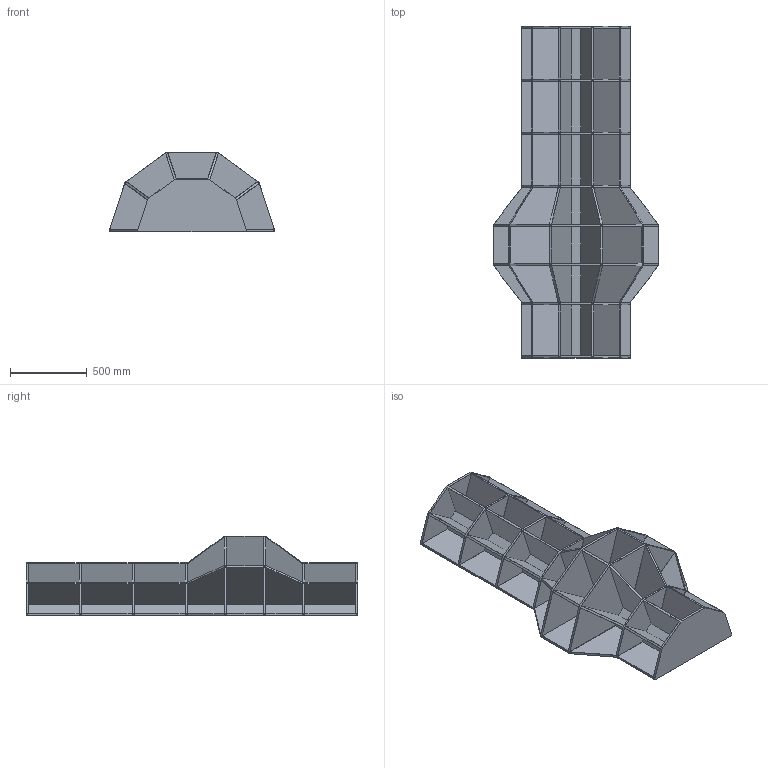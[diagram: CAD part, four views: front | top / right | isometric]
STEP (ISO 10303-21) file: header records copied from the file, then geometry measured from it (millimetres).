
FILE_DESCRIPTION (( 'STEP AP203' ), '1' );
FILE_NAME ('HAKU SELF STANDING STORAGE.STEP', '2023-03-21T11:40:36', ( '' ), ( '' ), 'SwSTEP 2.0', 'SolidWorks 2023', '' );
FILE_SCHEMA (( 'CONFIG_CONTROL_DESIGN' ));
Length unit declared in the file: millimetre
Products named in the file (2): Group1^self standing storage HAKU_defeature; HAKU SELF STANDING STORAGE
Assembly tree (1 placements, depth 2):
  HAKU SELF STANDING STORAGE
    Group1^self standing storage HAKU_defeature
Bounding box: 1072.88 x 2160 x 520 mm (x, y, z)
Volume: 90478221.1 mm3; surface area: 12279064.9 mm2
Topology: 1 solids, 1 shells, 1081 faces, 3121 edges, 1906 vertices
Faces by surface type: plane 1033, cylinder 48
Entity records: 34611 total; most frequent: ORIENTED_EDGE 6242, CARTESIAN_POINT 6112, DIRECTION 5391, EDGE_CURVE 3121, LINE 3021, VECTOR 3021, VERTEX_POINT 1906, AXIS2_PLACEMENT_3D 1185
